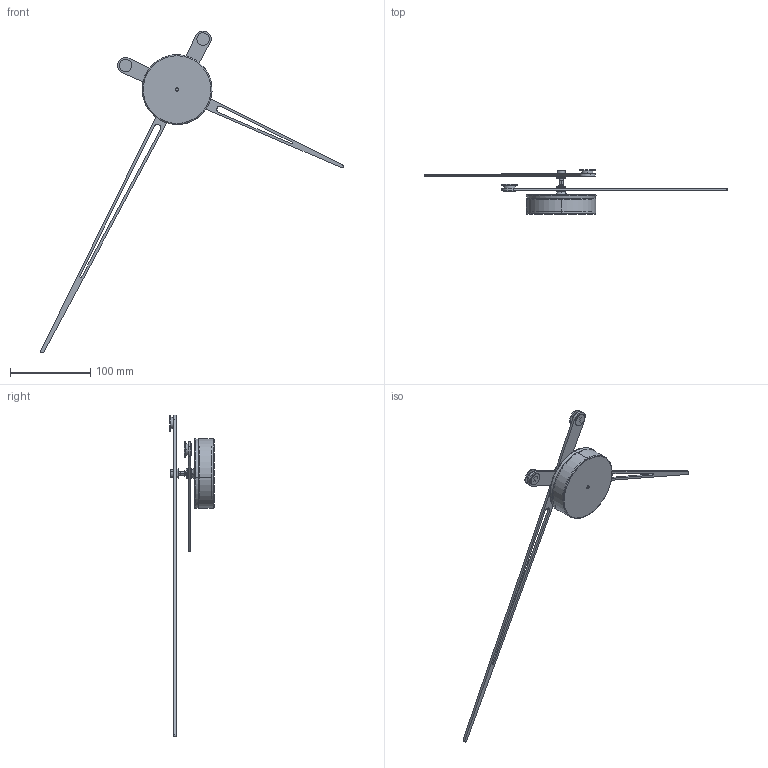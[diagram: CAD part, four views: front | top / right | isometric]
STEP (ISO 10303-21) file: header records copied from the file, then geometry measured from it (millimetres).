
FILE_DESCRIPTION (( 'STEP AP214' ), '1' );
FILE_NAME ('Axioma_n_74.STEP', '2021-09-06T08:26:24', ( '' ), ( '' ), 'SwSTEP 2.0', 'SolidWorks 2016', '' );
FILE_SCHEMA (( 'AUTOMOTIVE_DESIGN' ));
Length unit declared in the file: millimetre
Products named in the file (18): Caja_acero_inox; Axioma_n_74; Mecanismo; Esparrago; Aguja_minutera_calada_nogal_74; Embellecedor; Arandela_2; Cierre_contrapeso; Pieza2; Tuerca 1.5; Contrapeso_pequeño; aguja_minutera_calada_nogal_74; Inserto horaria; aguja_horaria_calada_nogal_74; Pieza_caja_superior; tuerca_7.3_1.5; Pieza_caja_inferior; Aguja_horaria_calada_nogal_74
Assembly tree (20 placements, depth 3):
  Axioma_n_74
    Caja_acero_inox
      Pieza_caja_inferior
      Pieza_caja_superior
      Mecanismo
      Pieza2
    Aguja_horaria_calada_nogal_74
      aguja_horaria_calada_nogal_74
      Inserto horaria
      tuerca_7.3_1.5
      Arandela_2
      Contrapeso_pequeño
      Cierre_contrapeso
    Aguja_minutera_calada_nogal_74
      aguja_minutera_calada_nogal_74
      Contrapeso_pequeño
      Cierre_contrapeso
      Arandela_2
      Embellecedor
      Esparrago
      Tuerca 1.5
Bounding box: 378.35 x 55.1 x 402.23 mm (x, y, z)
Volume: 85327.1 mm3; surface area: 82539.2 mm2
Topology: 17 solids, 17 shells, 219 faces, 458 edges, 290 vertices
Faces by surface type: cylinder 106, plane 75, torus 26, cone 12
Entity records: 6124 total; most frequent: DIRECTION 1100, CARTESIAN_POINT 900, ORIENTED_EDGE 832, AXIS2_PLACEMENT_3D 462, EDGE_CURVE 416, VERTEX_POINT 262, CIRCLE 240, EDGE_LOOP 236
